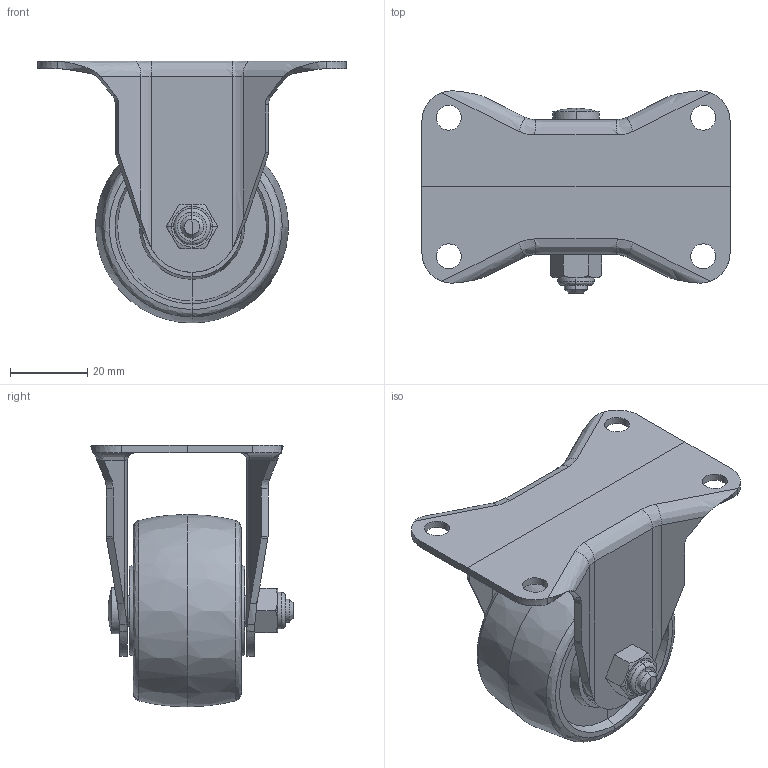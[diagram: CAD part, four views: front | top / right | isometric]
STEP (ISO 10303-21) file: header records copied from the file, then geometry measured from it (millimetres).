
FILE_DESCRIPTION (( 'STEP AP214' ), '1' );
FILE_NAME ('FP50GNWK.STEP', '2023-10-25T12:42:30', ( 'sakai' ), ( 'Hewlett-Packard' ), 'SwSTEP 2.0', 'SolidWorks 2010', '' );
FILE_SCHEMA (( 'AUTOMOTIVE_DESIGN' ));
Length unit declared in the file: millimetre
Products named in the file (6): FP50GNWK-10; FP50GNWK-11; FP50GNWK-12; FP50GNWK-13; FP50GNWK-14; FP50GNWK
Assembly tree (5 placements, depth 2):
  FP50GNWK
    FP50GNWK-13
    FP50GNWK-14
    FP50GNWK-10
    FP50GNWK-12
    FP50GNWK-11
Bounding box: 80 x 52.47 x 68 mm (x, y, z)
Volume: 64294.9 mm3; surface area: 28307 mm2
Topology: 5 solids, 5 shells, 204 faces, 473 edges, 271 vertices
Faces by surface type: bspline 150, plane 54
Entity records: 19125 total; most frequent: CARTESIAN_POINT 15468, ORIENTED_EDGE 942, EDGE_CURVE 471, B_SPLINE_CURVE_WITH_KNOTS 350, VERTEX_POINT 271, DIRECTION 245, EDGE_LOOP 216, ADVANCED_FACE 204
